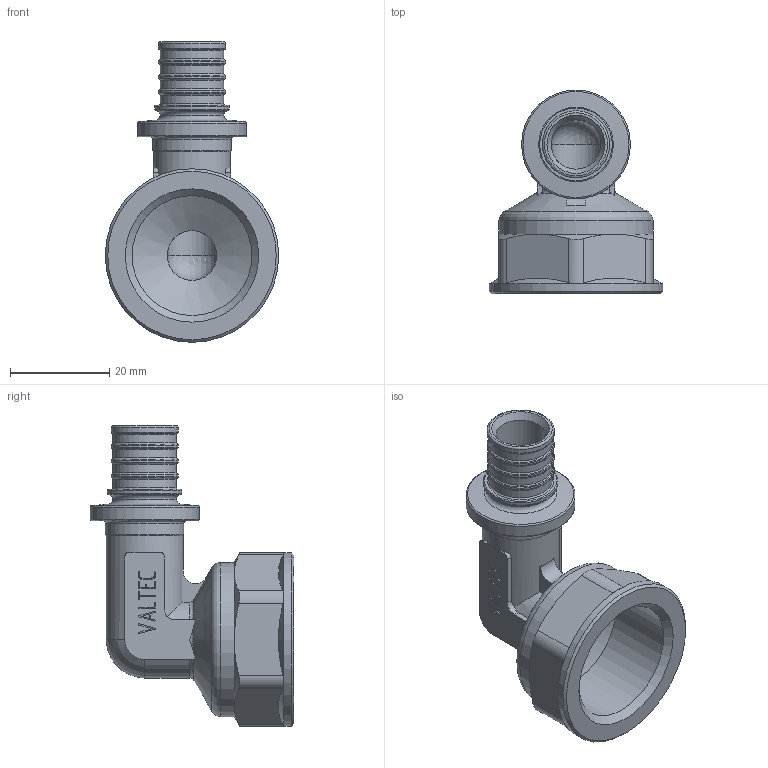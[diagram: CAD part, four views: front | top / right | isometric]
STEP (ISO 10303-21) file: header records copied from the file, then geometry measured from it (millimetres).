
FILE_DESCRIPTION(('STEP AP203'), '1');
FILE_NAME('ÂÐ.752213.007 - VTm.452.G.001605 - Ôèò. àêñ. óãîë', '', ('UNSPECIFIED'), ('UNSPECIFIED'), 'C3D Converter', 'C3D Toolkit', '');
FILE_SCHEMA(('CONFIG_CONTROL_DESIGN'));
Length unit declared in the file: millimetre
Products named in the file (1): ВР.752213.007
Bounding box: 34.9 x 40.95 x 60.45 mm (x, y, z)
Volume: 12764.6 mm3; surface area: 9201.9 mm2
Topology: 1 solids, 1 shells, 347 faces, 934 edges, 603 vertices
Faces by surface type: extrusion 142, plane 124, cylinder 36, torus 29, cone 14, sphere 2
Full cylindrical faces by diameter (mm): 10 x2, 12.8 x5, 13.5 x4, 15 x1, 15.5 x1, 15.8 x1, 21.9 x1, 24.118 x1, 31 x1, 34.9 x1
Entity records: 15057 total; most frequent: CARTESIAN_POINT 4389, ORIENTED_EDGE 1762, DIRECTION 1178, EDGE_CURVE 881, VERTEX_POINT 602, VECTOR 584, B_SPLINE_CURVE_WITH_KNOTS 487, LINE 442
